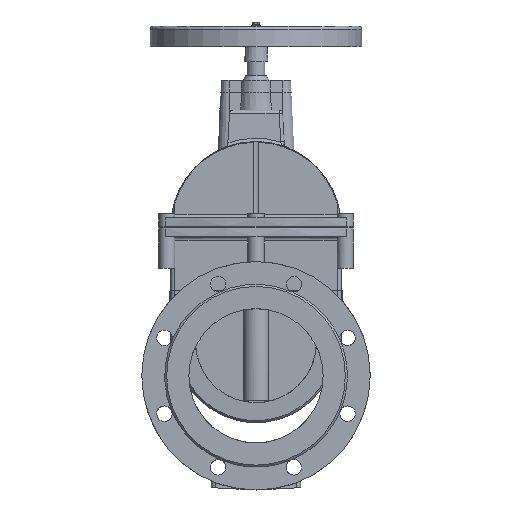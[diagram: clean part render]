
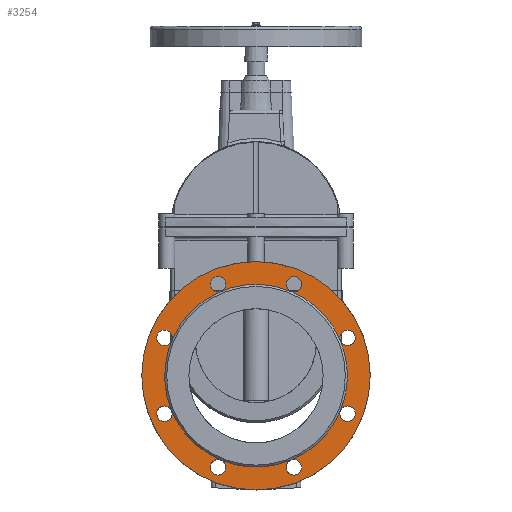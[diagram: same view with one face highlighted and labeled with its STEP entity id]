
A CAD part, left-side view. The second image highlights one B-rep face of the part: STEP entity #3254.
In plain terms, the highlighted planar face has unit normal (-1, 0, 0).
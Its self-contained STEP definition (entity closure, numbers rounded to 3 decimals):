
#3254=ADVANCED_FACE('',(#8253,#8255,#8257,#8259,#8261,#8263,#8265,#8267,#8269,#8271),
#8273,.F.);
#8253=FACE_BOUND('',#8254,.T.);
#8254=EDGE_LOOP('',(#17282));
#8255=FACE_BOUND('',#8256,.T.);
#8256=EDGE_LOOP('',(#17283,#17284));
#8257=FACE_BOUND('',#8258,.T.);
#8258=EDGE_LOOP('',(#17285));
#8259=FACE_BOUND('',#8260,.T.);
#8260=EDGE_LOOP('',(#17286));
#8261=FACE_BOUND('',#8262,.T.);
#8262=EDGE_LOOP('',(#17287,#17288,#17289,#17290,#17291,#17292,#17293));
#8263=FACE_BOUND('',#8264,.T.);
#8264=EDGE_LOOP('',(#17294,#17295));
#8265=FACE_BOUND('',#8266,.T.);
#8266=EDGE_LOOP('',(#17296,#17297));
#8267=FACE_BOUND('',#8268,.T.);
#8268=EDGE_LOOP('',(#17298,#17299));
#8269=FACE_BOUND('',#8270,.T.);
#8270=EDGE_LOOP('',(#17300,#17301));
#8271=FACE_BOUND('',#8272,.T.);
#8272=EDGE_LOOP('',(#17302,#17303));
#8273=PLANE('',#8274);
#8274=AXIS2_PLACEMENT_3D('',#8275,#8276,#8277);
#8275=CARTESIAN_POINT('',(-197.,0.,0.));
#8276=DIRECTION('',(1.,0.,0.));
#8277=DIRECTION('',(0.,1.,0.));
#17282=ORIENTED_EDGE('',*,*,#19989,.F.);
#17283=ORIENTED_EDGE('',*,*,#19997,.T.);
#17284=ORIENTED_EDGE('',*,*,#19998,.T.);
#17285=ORIENTED_EDGE('',*,*,#19996,.T.);
#17286=ORIENTED_EDGE('',*,*,#20009,.T.);
#17287=ORIENTED_EDGE('',*,*,#20132,.F.);
#17288=ORIENTED_EDGE('',*,*,#20133,.F.);
#17289=ORIENTED_EDGE('',*,*,#20134,.F.);
#17290=ORIENTED_EDGE('',*,*,#20135,.F.);
#17291=ORIENTED_EDGE('',*,*,#20136,.F.);
#17292=ORIENTED_EDGE('',*,*,#20137,.F.);
#17293=ORIENTED_EDGE('',*,*,#20138,.F.);
#17294=ORIENTED_EDGE('',*,*,#20008,.T.);
#17295=ORIENTED_EDGE('',*,*,#20007,.T.);
#17296=ORIENTED_EDGE('',*,*,#20006,.T.);
#17297=ORIENTED_EDGE('',*,*,#20005,.T.);
#17298=ORIENTED_EDGE('',*,*,#20004,.T.);
#17299=ORIENTED_EDGE('',*,*,#20003,.T.);
#17300=ORIENTED_EDGE('',*,*,#20002,.T.);
#17301=ORIENTED_EDGE('',*,*,#20001,.T.);
#17302=ORIENTED_EDGE('',*,*,#19999,.T.);
#17303=ORIENTED_EDGE('',*,*,#20000,.T.);
#19989=EDGE_CURVE('',#22627,#22627,#22628,.T.);
#19996=EDGE_CURVE('',#22637,#22637,#22638,.T.);
#19997=EDGE_CURVE('',#22639,#22640,#22641,.T.);
#19998=EDGE_CURVE('',#22640,#22639,#22642,.T.);
#19999=EDGE_CURVE('',#22643,#22644,#22645,.T.);
#20000=EDGE_CURVE('',#22644,#22643,#22646,.T.);
#20001=EDGE_CURVE('',#22647,#22648,#22649,.T.);
#20002=EDGE_CURVE('',#22648,#22647,#22650,.T.);
#20003=EDGE_CURVE('',#22651,#22652,#22653,.T.);
#20004=EDGE_CURVE('',#22652,#22651,#22654,.T.);
#20005=EDGE_CURVE('',#22655,#22656,#22657,.T.);
#20006=EDGE_CURVE('',#22656,#22655,#22658,.T.);
#20007=EDGE_CURVE('',#22659,#22660,#22661,.T.);
#20008=EDGE_CURVE('',#22660,#22659,#22662,.T.);
#20009=EDGE_CURVE('',#22663,#22663,#22664,.T.);
#20132=EDGE_CURVE('',#22656,#22660,#22856,.T.);
#20133=EDGE_CURVE('',#22857,#22656,#22858,.T.);
#20134=EDGE_CURVE('',#22652,#22857,#22859,.T.);
#20135=EDGE_CURVE('',#22648,#22652,#22860,.T.);
#20136=EDGE_CURVE('',#22643,#22648,#22861,.T.);
#20137=EDGE_CURVE('',#22639,#22643,#22862,.T.);
#20138=EDGE_CURVE('',#22660,#22639,#22863,.T.);
#22627=VERTEX_POINT('',#31132);
#22628=CIRCLE('',#31133,170.);
#22637=VERTEX_POINT('',#31159);
#22638=CIRCLE('',#31160,11.5);
#22639=VERTEX_POINT('',#31164);
#22640=VERTEX_POINT('',#31165);
#22641=CIRCLE('',#31166,11.5);
#22642=CIRCLE('',#31170,11.5);
#22643=VERTEX_POINT('',#31174);
#22644=VERTEX_POINT('',#31175);
#22645=CIRCLE('',#31176,11.5);
#22646=CIRCLE('',#31180,11.5);
#22647=VERTEX_POINT('',#31184);
#22648=VERTEX_POINT('',#31185);
#22649=CIRCLE('',#31186,11.5);
#22650=CIRCLE('',#31190,11.5);
#22651=VERTEX_POINT('',#31194);
#22652=VERTEX_POINT('',#31195);
#22653=CIRCLE('',#31196,11.5);
#22654=CIRCLE('',#31200,11.5);
#22655=VERTEX_POINT('',#31204);
#22656=VERTEX_POINT('',#31205);
#22657=CIRCLE('',#31206,11.5);
#22658=CIRCLE('',#31210,11.5);
#22659=VERTEX_POINT('',#31214);
#22660=VERTEX_POINT('',#31215);
#22661=CIRCLE('',#31216,11.5);
#22662=CIRCLE('',#31220,11.5);
#22663=VERTEX_POINT('',#31224);
#22664=CIRCLE('',#31225,11.5);
#22856=CIRCLE('',#31821,136.);
#22857=VERTEX_POINT('',#31825);
#22858=CIRCLE('',#31826,136.);
#22859=CIRCLE('',#31830,136.);
#22860=CIRCLE('',#31834,136.);
#22861=CIRCLE('',#31838,136.);
#22862=CIRCLE('',#31842,136.);
#22863=CIRCLE('',#31846,136.);
#31132=CARTESIAN_POINT('',(-197.,170.,0.));
#31133=AXIS2_PLACEMENT_3D('',#31134,#31135,#31136);
#31134=CARTESIAN_POINT('',(-197.,0.,0.));
#31135=DIRECTION('',(1.,0.,0.));
#31136=DIRECTION('',(0.,1.,0.));
#31159=CARTESIAN_POINT('',(-197.,147.772,56.446));
#31160=AXIS2_PLACEMENT_3D('',#31161,#31162,#31163);
#31161=CARTESIAN_POINT('',(-197.,136.272,56.446));
#31162=DIRECTION('',(1.,0.,0.));
#31163=DIRECTION('',(0.,1.,0.));
#31164=CARTESIAN_POINT('',(-197.,125.648,-52.045));
#31165=CARTESIAN_POINT('',(-197.,144.404,-64.578));
#31166=AXIS2_PLACEMENT_3D('',#31167,#31168,#31169);
#31167=CARTESIAN_POINT('',(-197.,136.272,-56.446));
#31168=DIRECTION('',(1.,0.,0.));
#31169=DIRECTION('',(0.,-0.924,0.383));
#31170=AXIS2_PLACEMENT_3D('',#31171,#31172,#31173);
#31171=CARTESIAN_POINT('',(-197.,136.272,-56.446));
#31172=DIRECTION('',(1.,0.,0.));
#31173=DIRECTION('',(0.,0.707,-0.707));
#31174=CARTESIAN_POINT('',(-197.,52.045,-125.648));
#31175=CARTESIAN_POINT('',(-197.,56.446,-147.772));
#31176=AXIS2_PLACEMENT_3D('',#31177,#31178,#31179);
#31177=CARTESIAN_POINT('',(-197.,56.446,-136.272));
#31178=DIRECTION('',(1.,0.,0.));
#31179=DIRECTION('',(0.,-0.383,0.924));
#31180=AXIS2_PLACEMENT_3D('',#31181,#31182,#31183);
#31181=CARTESIAN_POINT('',(-197.,56.446,-136.272));
#31182=DIRECTION('',(1.,0.,0.));
#31183=DIRECTION('',(0.,0.,-1.));
#31184=CARTESIAN_POINT('',(-197.,-64.578,-144.404));
#31185=CARTESIAN_POINT('',(-197.,-52.045,-125.648));
#31186=AXIS2_PLACEMENT_3D('',#31187,#31188,#31189);
#31187=CARTESIAN_POINT('',(-197.,-56.446,-136.272));
#31188=DIRECTION('',(1.,0.,0.));
#31189=DIRECTION('',(0.,-0.707,-0.707));
#31190=AXIS2_PLACEMENT_3D('',#31191,#31192,#31193);
#31191=CARTESIAN_POINT('',(-197.,-56.446,-136.272));
#31192=DIRECTION('',(1.,0.,0.));
#31193=DIRECTION('',(0.,0.383,0.924));
#31194=CARTESIAN_POINT('',(-197.,-147.772,-56.446));
#31195=CARTESIAN_POINT('',(-197.,-125.648,-52.045));
#31196=AXIS2_PLACEMENT_3D('',#31197,#31198,#31199);
#31197=CARTESIAN_POINT('',(-197.,-136.272,-56.446));
#31198=DIRECTION('',(1.,0.,0.));
#31199=DIRECTION('',(0.,-1.,0.));
#31200=AXIS2_PLACEMENT_3D('',#31201,#31202,#31203);
#31201=CARTESIAN_POINT('',(-197.,-136.272,-56.446));
#31202=DIRECTION('',(1.,0.,0.));
#31203=DIRECTION('',(0.,0.924,0.383));
#31204=CARTESIAN_POINT('',(-197.,-144.404,64.578));
#31205=CARTESIAN_POINT('',(-197.,-125.648,52.045));
#31206=AXIS2_PLACEMENT_3D('',#31207,#31208,#31209);
#31207=CARTESIAN_POINT('',(-197.,-136.272,56.446));
#31208=DIRECTION('',(1.,0.,0.));
#31209=DIRECTION('',(0.,-0.707,0.707));
#31210=AXIS2_PLACEMENT_3D('',#31211,#31212,#31213);
#31211=CARTESIAN_POINT('',(-197.,-136.272,56.446));
#31212=DIRECTION('',(1.,0.,0.));
#31213=DIRECTION('',(0.,0.924,-0.383));
#31214=CARTESIAN_POINT('',(-197.,-56.446,147.772));
#31215=CARTESIAN_POINT('',(-197.,-52.045,125.648));
#31216=AXIS2_PLACEMENT_3D('',#31217,#31218,#31219);
#31217=CARTESIAN_POINT('',(-197.,-56.446,136.272));
#31218=DIRECTION('',(1.,0.,0.));
#31219=DIRECTION('',(0.,0.,1.));
#31220=AXIS2_PLACEMENT_3D('',#31221,#31222,#31223);
#31221=CARTESIAN_POINT('',(-197.,-56.446,136.272));
#31222=DIRECTION('',(1.,0.,0.));
#31223=DIRECTION('',(0.,0.383,-0.924));
#31224=CARTESIAN_POINT('',(-197.,64.578,144.404));
#31225=AXIS2_PLACEMENT_3D('',#31226,#31227,#31228);
#31226=CARTESIAN_POINT('',(-197.,56.446,136.272));
#31227=DIRECTION('',(1.,0.,0.));
#31228=DIRECTION('',(0.,0.707,0.707));
#31821=AXIS2_PLACEMENT_3D('',#31822,#31823,#31824);
#31822=CARTESIAN_POINT('',(-197.,0.,0.));
#31823=DIRECTION('',(-1.,0.,0.));
#31824=DIRECTION('',(0.,-0.924,0.383));
#31825=CARTESIAN_POINT('',(-197.,-136.,0.));
#31826=AXIS2_PLACEMENT_3D('',#31827,#31828,#31829);
#31827=CARTESIAN_POINT('',(-197.,0.,0.));
#31828=DIRECTION('',(-1.,0.,0.));
#31829=DIRECTION('',(0.,-1.,0.));
#31830=AXIS2_PLACEMENT_3D('',#31831,#31832,#31833);
#31831=CARTESIAN_POINT('',(-197.,0.,0.));
#31832=DIRECTION('',(-1.,0.,0.));
#31833=DIRECTION('',(0.,-0.924,-0.383));
#31834=AXIS2_PLACEMENT_3D('',#31835,#31836,#31837);
#31835=CARTESIAN_POINT('',(-197.,0.,0.));
#31836=DIRECTION('',(-1.,0.,0.));
#31837=DIRECTION('',(0.,-0.383,-0.924));
#31838=AXIS2_PLACEMENT_3D('',#31839,#31840,#31841);
#31839=CARTESIAN_POINT('',(-197.,0.,0.));
#31840=DIRECTION('',(-1.,0.,0.));
#31841=DIRECTION('',(0.,0.383,-0.924));
#31842=AXIS2_PLACEMENT_3D('',#31843,#31844,#31845);
#31843=CARTESIAN_POINT('',(-197.,0.,0.));
#31844=DIRECTION('',(-1.,0.,0.));
#31845=DIRECTION('',(0.,0.924,-0.383));
#31846=AXIS2_PLACEMENT_3D('',#31847,#31848,#31849);
#31847=CARTESIAN_POINT('',(-197.,0.,0.));
#31848=DIRECTION('',(-1.,0.,0.));
#31849=DIRECTION('',(0.,-0.383,0.924));
